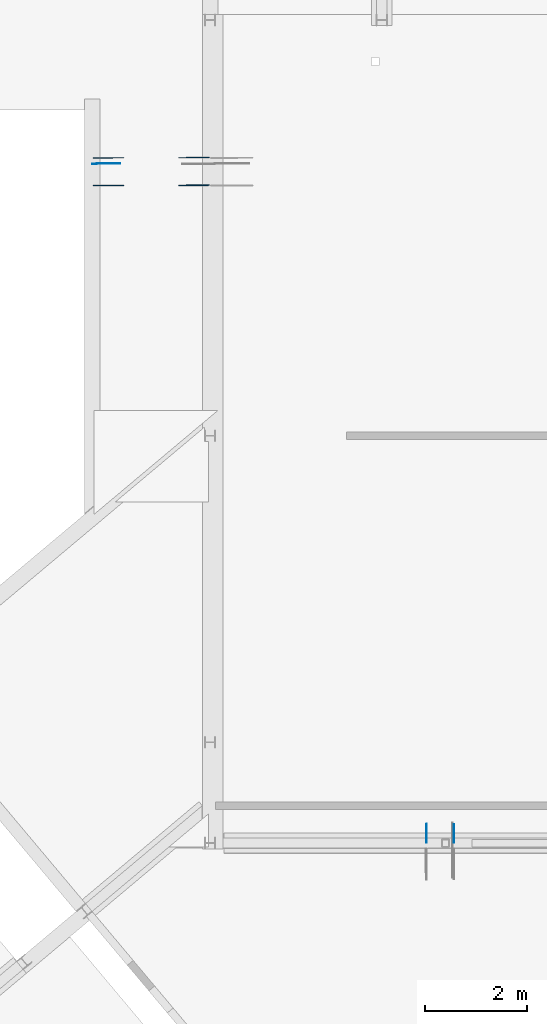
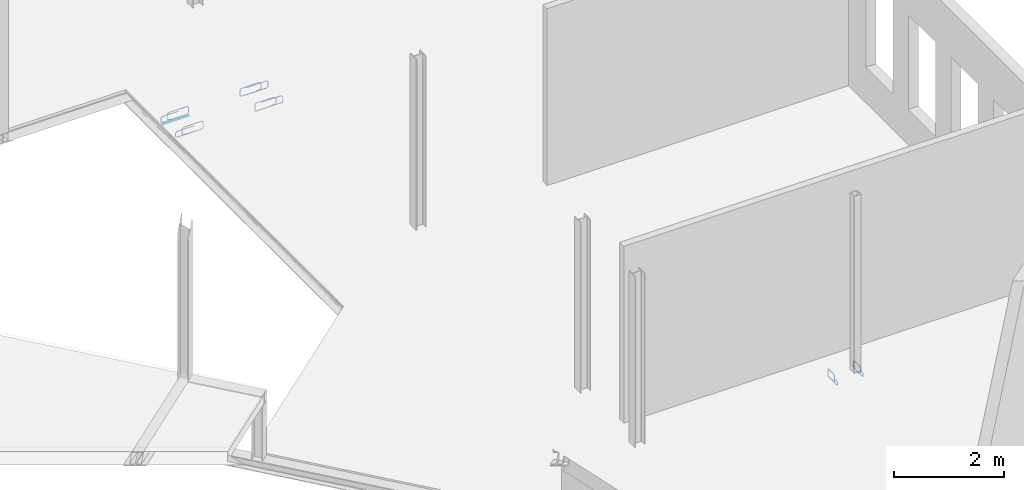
# One storey, part 14 of 16: 7 reinforcing bars.
"""IFC2X3 building model written with IfcOpenShell, lengths in millimetres."""

from ifc_helpers import new_model, entity, si_unit, converted_unit, derived_unit, direction, frame, origin, place, context, subcontext, project, spatial, element, save


model = new_model("IFC2X3")

# Units and contexts
model_context = context("Model", 3, precision=0.01, world=origin(), true_north=direction((6.12303176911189e-17, 1.0)))
body_context = subcontext(model_context, "Body", "Model", "MODEL_VIEW")
ifc_project = project(units=[si_unit("LENGTHUNIT", "METRE", prefix="MILLI"), si_unit("AREAUNIT", "SQUARE_METRE"), si_unit("VOLUMEUNIT", "CUBIC_METRE"), converted_unit("PLANEANGLEUNIT", "DEGREE", entity("IfcRatioMeasure", 0.0174532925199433), si_unit("PLANEANGLEUNIT", "RADIAN"), dimensions=[0, 0, 0, 0, 0, 0, 0]), si_unit("MASSUNIT", "GRAM", prefix="KILO"), derived_unit("MASSDENSITYUNIT", [(si_unit("MASSUNIT", "GRAM", prefix="KILO"), 1), (si_unit("LENGTHUNIT", "METRE"), -3)]), derived_unit("MOMENTOFINERTIAUNIT", [(si_unit("LENGTHUNIT", "METRE"), 4)]), si_unit("TIMEUNIT", "SECOND"), si_unit("FREQUENCYUNIT", "HERTZ"), si_unit("THERMODYNAMICTEMPERATUREUNIT", "DEGREE_CELSIUS"), derived_unit("THERMALTRANSMITTANCEUNIT", [(si_unit("MASSUNIT", "GRAM", prefix="KILO"), 1), (si_unit("THERMODYNAMICTEMPERATUREUNIT", "KELVIN"), -1), (si_unit("TIMEUNIT", "SECOND"), -3)]), derived_unit("VOLUMETRICFLOWRATEUNIT", [(si_unit("LENGTHUNIT", "METRE"), 3), (si_unit("TIMEUNIT", "SECOND"), -1)]), si_unit("ELECTRICCURRENTUNIT", "AMPERE"), si_unit("ELECTRICVOLTAGEUNIT", "VOLT"), si_unit("POWERUNIT", "WATT"), si_unit("FORCEUNIT", "NEWTON", prefix="KILO"), si_unit("ILLUMINANCEUNIT", "LUX"), si_unit("LUMINOUSFLUXUNIT", "LUMEN"), si_unit("LUMINOUSINTENSITYUNIT", "CANDELA"), derived_unit("USERDEFINED", [(si_unit("MASSUNIT", "GRAM", prefix="KILO"), -1), (si_unit("LENGTHUNIT", "METRE"), -2), (si_unit("TIMEUNIT", "SECOND"), 3), (si_unit("LUMINOUSFLUXUNIT", "LUMEN"), 1)]), derived_unit("LINEARVELOCITYUNIT", [(si_unit("LENGTHUNIT", "METRE"), 1), (si_unit("TIMEUNIT", "SECOND"), -1)]), si_unit("PRESSUREUNIT", "PASCAL"), derived_unit("USERDEFINED", [(si_unit("LENGTHUNIT", "METRE"), -2), (si_unit("MASSUNIT", "GRAM", prefix="KILO"), 1), (si_unit("TIMEUNIT", "SECOND"), -2)]), derived_unit("LINEARFORCEUNIT", [(si_unit("MASSUNIT", "GRAM", prefix="KILO"), 1), (si_unit("LENGTHUNIT", "METRE"), 1), (si_unit("TIMEUNIT", "SECOND"), -2), (si_unit("LENGTHUNIT", "METRE"), -1)]), derived_unit("PLANARFORCEUNIT", [(si_unit("MASSUNIT", "GRAM", prefix="KILO"), 1), (si_unit("LENGTHUNIT", "METRE"), 1), (si_unit("TIMEUNIT", "SECOND"), -2), (si_unit("LENGTHUNIT", "METRE"), -2)])], contexts=[model_context])

# Site, building, storey
site_placement = place(None, origin())
site = spatial("IfcSite", under=ifc_project, at=site_placement, Name="Default", CompositionType="ELEMENT")
building_placement = place(site_placement, origin())
building = spatial("IfcBuilding", under=site, at=building_placement, CompositionType="ELEMENT")
storey_placement = place(building_placement, frame((0.0, 0.0, 3500.0)))
storey = spatial("IfcBuildingStorey", under=building, at=storey_placement, Name="01 eerste verdieping", CompositionType="ELEMENT", Elevation=3500.00000000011)

# Reinforcing bars
reinforcing_bar_1_placement = place(storey_placement, origin())
ifc_direction_1 = entity("IfcDirection", [0.0, -1.0, 0.0])
ifc_direction_2 = entity("IfcDirection", [1.0, 0.0, 0.0])
element("IfcReinforcingBar", 1, at=reinforcing_bar_1_placement, inside=storey, Name="Rebar Bar:SR_ø8 : Shape Rebar Shape 5: 1", ObjectType="Rebar Bar:SR_ø8", BarLength=1953.71830744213, BarRole="NOTDEFINED", CrossSectionArea=5.02654824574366e-05, NominalDiameter=8.0, context=body_context, shape_type="AdvancedSweptSolid", body=[
    entity("IfcSweptDiskSolid", entity("IfcCompositeCurve", [entity("IfcCompositeCurveSegment", "CONTINUOUS", True, entity("IfcPolyline", [entity("IfcCartesianPoint", [25353.3084043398, 15141.6014686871, 205.203958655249]), entity("IfcCartesianPoint", [25405.3084043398, 15141.6014686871, 205.20395865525])])), entity("IfcCompositeCurveSegment", "CONTINUOUS", True, entity("IfcTrimmedCurve", entity("IfcCircle", entity("IfcAxis2Placement3D", entity("IfcCartesianPoint", [25405.3084043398, 15141.6014686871, 249.203958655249]), ifc_direction_1, ifc_direction_2), 44.0), [entity("IfcParameterValue", 270.0)], [entity("IfcParameterValue", 360.0)], True, "PARAMETER")), entity("IfcCompositeCurveSegment", "CONTINUOUS", True, entity("IfcPolyline", [entity("IfcCartesianPoint", [25449.3084043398, 15141.6014686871, 249.20395865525]), entity("IfcCartesianPoint", [25449.3084043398, 15141.6014686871, 322.533605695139])])), entity("IfcCompositeCurveSegment", "CONTINUOUS", True, entity("IfcTrimmedCurve", entity("IfcCircle", entity("IfcAxis2Placement3D", entity("IfcCartesianPoint", [25405.3084043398, 15141.6014686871, 322.533605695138]), ifc_direction_1, entity("IfcDirection", [0.0, 0.0, 1.0])), 44.0), [entity("IfcParameterValue", 270.0)], [entity("IfcParameterValue", 360.0)], True, "PARAMETER")), entity("IfcCompositeCurveSegment", "CONTINUOUS", True, entity("IfcPolyline", [entity("IfcCartesianPoint", [25405.3084043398, 15141.6014686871, 366.533605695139]), entity("IfcCartesianPoint", [25049.0333681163, 15141.6014686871, 366.533605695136])])), entity("IfcCompositeCurveSegment", "CONTINUOUS", True, entity("IfcTrimmedCurve", entity("IfcCircle", entity("IfcAxis2Placement3D", entity("IfcCartesianPoint", [25049.0333681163, 15141.6014686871, 322.533605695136]), ifc_direction_1, entity("IfcDirection", [-1.0, 0.0, 0.0])), 44.0), [entity("IfcParameterValue", 270.0)], [entity("IfcParameterValue", 360.0)], True, "PARAMETER")), entity("IfcCompositeCurveSegment", "CONTINUOUS", True, entity("IfcPolyline", [entity("IfcCartesianPoint", [25005.0333681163, 15141.6014686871, 322.533605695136]), entity("IfcCartesianPoint", [25005.0333681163, 15141.6014686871, 235.73556592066])])), entity("IfcCompositeCurveSegment", "CONTINUOUS", True, entity("IfcTrimmedCurve", entity("IfcCircle", entity("IfcAxis2Placement3D", entity("IfcCartesianPoint", [25049.0333681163, 15141.6014686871, 235.73556592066]), ifc_direction_1, entity("IfcDirection", [0.0, 0.0, -1.0])), 44.0), [entity("IfcParameterValue", 270.0)], [entity("IfcParameterValue", 360.0)], True, "PARAMETER")), entity("IfcCompositeCurveSegment", "CONTINUOUS", True, entity("IfcPolyline", [entity("IfcCartesianPoint", [25049.0333681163, 15141.6014686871, 191.73556592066]), entity("IfcCartesianPoint", [25551.3187459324, 15141.6014686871, 191.735565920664])])), entity("IfcCompositeCurveSegment", "CONTINUOUS", True, entity("IfcTrimmedCurve", entity("IfcCircle", entity("IfcAxis2Placement3D", entity("IfcCartesianPoint", [25551.3187459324, 15143.9214803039, 235.674359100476]), entity("IfcDirection", [0.0, -0.998608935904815, 0.0527275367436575]), ifc_direction_2), 44.0), [entity("IfcParameterValue", 270.0)], [entity("IfcParameterValue", 360.0)], True, "PARAMETER")), entity("IfcCompositeCurveSegment", "CONTINUOUS", True, entity("IfcPolyline", [entity("IfcCartesianPoint", [25595.3187459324, 15143.9214803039, 235.674359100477]), entity("IfcCartesianPoint", [25595.3187459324, 15147.2814570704, 299.309094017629])])), entity("IfcCompositeCurveSegment", "CONTINUOUS", True, entity("IfcTrimmedCurve", entity("IfcCircle", entity("IfcAxis2Placement3D", entity("IfcCartesianPoint", [25551.3187459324, 15147.2814570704, 299.309094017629]), entity("IfcDirection", [0.0, -0.998608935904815, 0.0527275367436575]), entity("IfcDirection", [0.0, 0.0527275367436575, 0.998608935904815])), 44.0), [entity("IfcParameterValue", 270.0)], [entity("IfcParameterValue", 360.0)], True, "PARAMETER")), entity("IfcCompositeCurveSegment", "CONTINUOUS", True, entity("IfcPolyline", [entity("IfcCartesianPoint", [25551.3187459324, 15149.6014686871, 343.24788719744]), entity("IfcCartesianPoint", [25146.4910908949, 15149.6014686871, 343.247887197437])]))], False), 4.0, None, 0.0, 547.0),
])
reinforcing_bar_2_placement = place(storey_placement, origin())
ifc_direction_3 = entity("IfcDirection", [0.0, -1.0, 0.0])
ifc_direction_4 = entity("IfcDirection", [1.0, 0.0, 0.0])
element("IfcReinforcingBar", 2, at=reinforcing_bar_2_placement, inside=storey, Name="Rebar Bar:SR_ø8 : Shape Rebar Shape 5: 2", ObjectType="Rebar Bar:SR_ø8", BarLength=1953.71830744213, BarRole="NOTDEFINED", CrossSectionArea=5.02654824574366e-05, NominalDiameter=8.0, context=body_context, shape_type="AdvancedSweptSolid", body=[
    entity("IfcSweptDiskSolid", entity("IfcCompositeCurve", [entity("IfcCompositeCurveSegment", "CONTINUOUS", True, entity("IfcPolyline", [entity("IfcCartesianPoint", [25353.3084043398, 14602.8628808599, 205.203958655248]), entity("IfcCartesianPoint", [25405.3084043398, 14602.8628808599, 205.203958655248])])), entity("IfcCompositeCurveSegment", "CONTINUOUS", True, entity("IfcTrimmedCurve", entity("IfcCircle", entity("IfcAxis2Placement3D", entity("IfcCartesianPoint", [25405.3084043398, 14602.8628808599, 249.203958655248]), ifc_direction_3, ifc_direction_4), 44.0), [entity("IfcParameterValue", 270.0)], [entity("IfcParameterValue", 360.0)], True, "PARAMETER")), entity("IfcCompositeCurveSegment", "CONTINUOUS", True, entity("IfcPolyline", [entity("IfcCartesianPoint", [25449.3084043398, 14602.8628808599, 249.203958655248]), entity("IfcCartesianPoint", [25449.3084043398, 14602.8628808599, 322.533605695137])])), entity("IfcCompositeCurveSegment", "CONTINUOUS", True, entity("IfcTrimmedCurve", entity("IfcCircle", entity("IfcAxis2Placement3D", entity("IfcCartesianPoint", [25405.3084043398, 14602.8628808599, 322.533605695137]), ifc_direction_3, entity("IfcDirection", [0.0, 0.0, 1.0])), 44.0), [entity("IfcParameterValue", 270.0)], [entity("IfcParameterValue", 360.0)], True, "PARAMETER")), entity("IfcCompositeCurveSegment", "CONTINUOUS", True, entity("IfcPolyline", [entity("IfcCartesianPoint", [25405.3084043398, 14602.8628808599, 366.533605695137]), entity("IfcCartesianPoint", [25049.0333681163, 14602.8628808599, 366.533605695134])])), entity("IfcCompositeCurveSegment", "CONTINUOUS", True, entity("IfcTrimmedCurve", entity("IfcCircle", entity("IfcAxis2Placement3D", entity("IfcCartesianPoint", [25049.0333681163, 14602.8628808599, 322.533605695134]), ifc_direction_3, entity("IfcDirection", [-1.0, 0.0, 0.0])), 44.0), [entity("IfcParameterValue", 270.0)], [entity("IfcParameterValue", 360.0)], True, "PARAMETER")), entity("IfcCompositeCurveSegment", "CONTINUOUS", True, entity("IfcPolyline", [entity("IfcCartesianPoint", [25005.0333681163, 14602.8628808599, 322.533605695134]), entity("IfcCartesianPoint", [25005.0333681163, 14602.8628808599, 235.735565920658])])), entity("IfcCompositeCurveSegment", "CONTINUOUS", True, entity("IfcTrimmedCurve", entity("IfcCircle", entity("IfcAxis2Placement3D", entity("IfcCartesianPoint", [25049.0333681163, 14602.8628808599, 235.735565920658]), ifc_direction_3, entity("IfcDirection", [0.0, 0.0, -1.0])), 44.0), [entity("IfcParameterValue", 270.0)], [entity("IfcParameterValue", 360.0)], True, "PARAMETER")), entity("IfcCompositeCurveSegment", "CONTINUOUS", True, entity("IfcPolyline", [entity("IfcCartesianPoint", [25049.0333681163, 14602.8628808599, 191.735565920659]), entity("IfcCartesianPoint", [25551.3187459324, 14602.8628808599, 191.735565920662])])), entity("IfcCompositeCurveSegment", "CONTINUOUS", True, entity("IfcTrimmedCurve", entity("IfcCircle", entity("IfcAxis2Placement3D", entity("IfcCartesianPoint", [25551.3187459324, 14605.1828924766, 235.674359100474]), entity("IfcDirection", [0.0, -0.998608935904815, 0.0527275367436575]), ifc_direction_4), 44.0), [entity("IfcParameterValue", 270.0)], [entity("IfcParameterValue", 360.0)], True, "PARAMETER")), entity("IfcCompositeCurveSegment", "CONTINUOUS", True, entity("IfcPolyline", [entity("IfcCartesianPoint", [25595.3187459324, 14605.1828924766, 235.674359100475]), entity("IfcCartesianPoint", [25595.3187459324, 14608.5428692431, 299.309094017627])])), entity("IfcCompositeCurveSegment", "CONTINUOUS", True, entity("IfcTrimmedCurve", entity("IfcCircle", entity("IfcAxis2Placement3D", entity("IfcCartesianPoint", [25551.3187459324, 14608.5428692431, 299.309094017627]), entity("IfcDirection", [0.0, -0.998608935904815, 0.0527275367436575]), entity("IfcDirection", [0.0, 0.0527275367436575, 0.998608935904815])), 44.0), [entity("IfcParameterValue", 270.0)], [entity("IfcParameterValue", 360.0)], True, "PARAMETER")), entity("IfcCompositeCurveSegment", "CONTINUOUS", True, entity("IfcPolyline", [entity("IfcCartesianPoint", [25551.3187459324, 14610.8628808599, 343.247887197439]), entity("IfcCartesianPoint", [25146.4910908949, 14610.8628808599, 343.247887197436])]))], False), 4.0, None, 0.0, 547.0),
])
reinforcing_bar_3_placement = place(storey_placement, origin())
element("IfcReinforcingBar", 3, at=reinforcing_bar_3_placement, inside=storey, Name="Rebar Bar:SR_ø10 1 : Shape 00 3: 1", ObjectType="Rebar Bar:SR_ø10 1", BarLength=545.078420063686, BarRole="NOTDEFINED", CrossSectionArea=7.85398163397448e-05, NominalDiameter=10.0, context=body_context, shape_type="AdvancedSweptSolid", body=[
    entity("IfcSweptDiskSolid", entity("IfcCompositeCurve", [entity("IfcCompositeCurveSegment", "CONTINUOUS", True, entity("IfcPolyline", [entity("IfcCartesianPoint", [23315.8909803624, 15023.9904877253, 243.499999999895]), entity("IfcCartesianPoint", [23860.9572918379, 15027.6236837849, 243.499999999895])]))], False), 5.0, None, 0.0, 1.0),
])
reinforcing_bar_4_placement = place(storey_placement, origin())
ifc_direction_5 = entity("IfcDirection", [0.0, 1.0, 0.0])
ifc_direction_6 = entity("IfcDirection", [-1.0, 0.0, 0.0])
element("IfcReinforcingBar", 4, at=reinforcing_bar_4_placement, inside=storey, Name="Rebar Bar:SR_ø8 : Shape Rebar Shape 5: 1", ObjectType="Rebar Bar:SR_ø8", BarLength=1863.16138541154, BarRole="NOTDEFINED", CrossSectionArea=5.02654824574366e-05, NominalDiameter=8.0, context=body_context, shape_type="AdvancedSweptSolid", body=[
    entity("IfcSweptDiskSolid", entity("IfcCompositeCurve", [entity("IfcCompositeCurveSegment", "CONTINUOUS", True, entity("IfcPolyline", [entity("IfcCartesianPoint", [23572.29160798, 15141.6014686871, 205.203958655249]), entity("IfcCartesianPoint", [23520.29160798, 15141.6014686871, 205.203958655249])])), entity("IfcCompositeCurveSegment", "CONTINUOUS", True, entity("IfcTrimmedCurve", entity("IfcCircle", entity("IfcAxis2Placement3D", entity("IfcCartesianPoint", [23520.29160798, 15141.6014686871, 249.203958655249]), ifc_direction_5, ifc_direction_6), 44.0), [entity("IfcParameterValue", 270.0)], [entity("IfcParameterValue", 360.0)], True, "PARAMETER")), entity("IfcCompositeCurveSegment", "CONTINUOUS", True, entity("IfcPolyline", [entity("IfcCartesianPoint", [23476.29160798, 15141.6014686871, 249.203958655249]), entity("IfcCartesianPoint", [23476.29160798, 15141.6014686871, 322.533605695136])])), entity("IfcCompositeCurveSegment", "CONTINUOUS", True, entity("IfcTrimmedCurve", entity("IfcCircle", entity("IfcAxis2Placement3D", entity("IfcCartesianPoint", [23520.29160798, 15141.6014686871, 322.533605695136]), ifc_direction_5, entity("IfcDirection", [0.0, 0.0, 1.0])), 44.0), [entity("IfcParameterValue", 270.0)], [entity("IfcParameterValue", 360.0)], True, "PARAMETER")), entity("IfcCompositeCurveSegment", "CONTINUOUS", True, entity("IfcPolyline", [entity("IfcCartesianPoint", [23520.29160798, 15141.6014686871, 366.533605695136]), entity("IfcCartesianPoint", [23877.9697515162, 15141.6014686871, 366.533605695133])])), entity("IfcCompositeCurveSegment", "CONTINUOUS", True, entity("IfcTrimmedCurve", entity("IfcCircle", entity("IfcAxis2Placement3D", entity("IfcCartesianPoint", [23877.9697515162, 15141.6014686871, 322.533605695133]), ifc_direction_5, entity("IfcDirection", [1.0, 0.0, 0.0])), 44.0), [entity("IfcParameterValue", 270.0)], [entity("IfcParameterValue", 360.0)], True, "PARAMETER")), entity("IfcCompositeCurveSegment", "CONTINUOUS", True, entity("IfcPolyline", [entity("IfcCartesianPoint", [23921.9697515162, 15141.6014686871, 322.533605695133]), entity("IfcCartesianPoint", [23921.9697515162, 15141.6014686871, 235.735565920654])])), entity("IfcCompositeCurveSegment", "CONTINUOUS", True, entity("IfcTrimmedCurve", entity("IfcCircle", entity("IfcAxis2Placement3D", entity("IfcCartesianPoint", [23877.9697515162, 15141.6014686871, 235.735565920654]), ifc_direction_5, entity("IfcDirection", [0.0, 0.0, -1.0])), 44.0), [entity("IfcParameterValue", 270.0)], [entity("IfcParameterValue", 360.0)], True, "PARAMETER")), entity("IfcCompositeCurveSegment", "CONTINUOUS", True, entity("IfcPolyline", [entity("IfcCartesianPoint", [23877.9697515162, 15141.6014686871, 191.735565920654]), entity("IfcCartesianPoint", [23382.9258462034, 15141.6014686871, 191.735565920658])])), entity("IfcCompositeCurveSegment", "CONTINUOUS", True, entity("IfcTrimmedCurve", entity("IfcCircle", entity("IfcAxis2Placement3D", entity("IfcCartesianPoint", [23382.9258462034, 15139.0652222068, 235.662407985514]), entity("IfcDirection", [0.0, 0.998337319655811, 0.0576419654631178]), ifc_direction_6), 44.0), [entity("IfcParameterValue", 270.0)], [entity("IfcParameterValue", 360.0)], True, "PARAMETER")), entity("IfcCompositeCurveSegment", "CONTINUOUS", True, entity("IfcPolyline", [entity("IfcCartesianPoint", [23338.9258462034, 15139.0652222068, 235.662407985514]), entity("IfcCartesianPoint", [23338.9258462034, 15136.1377151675, 286.365736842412])])), entity("IfcCompositeCurveSegment", "CONTINUOUS", True, entity("IfcTrimmedCurve", entity("IfcCircle", entity("IfcAxis2Placement3D", entity("IfcCartesianPoint", [23382.9258462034, 15136.1377151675, 286.365736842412]), entity("IfcDirection", [0.0, 0.998337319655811, 0.0576419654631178]), entity("IfcDirection", [0.0, -0.0576419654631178, 0.998337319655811])), 44.0), [entity("IfcParameterValue", 270.0)], [entity("IfcParameterValue", 360.0)], True, "PARAMETER")), entity("IfcCompositeCurveSegment", "CONTINUOUS", True, entity("IfcPolyline", [entity("IfcCartesianPoint", [23382.9258462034, 15133.6014686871, 330.292578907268]), entity("IfcCartesianPoint", [23715.990252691, 15133.6014686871, 330.292578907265])]))], False), 4.0, None, 0.0, 547.0),
])
reinforcing_bar_5_placement = place(storey_placement, origin())
ifc_direction_7 = entity("IfcDirection", [0.0, 1.0, 0.0])
ifc_direction_8 = entity("IfcDirection", [-1.0, 0.0, 0.0])
element("IfcReinforcingBar", 5, at=reinforcing_bar_5_placement, inside=storey, Name="Rebar Bar:SR_ø8 : Shape Rebar Shape 5: 2", ObjectType="Rebar Bar:SR_ø8", BarLength=1863.16138541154, BarRole="NOTDEFINED", CrossSectionArea=5.02654824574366e-05, NominalDiameter=8.0, context=body_context, shape_type="AdvancedSweptSolid", body=[
    entity("IfcSweptDiskSolid", entity("IfcCompositeCurve", [entity("IfcCompositeCurveSegment", "CONTINUOUS", True, entity("IfcPolyline", [entity("IfcCartesianPoint", [23572.29160798, 14602.8628808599, 205.203958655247]), entity("IfcCartesianPoint", [23520.29160798, 14602.8628808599, 205.203958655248])])), entity("IfcCompositeCurveSegment", "CONTINUOUS", True, entity("IfcTrimmedCurve", entity("IfcCircle", entity("IfcAxis2Placement3D", entity("IfcCartesianPoint", [23520.29160798, 14602.8628808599, 249.203958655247]), ifc_direction_7, ifc_direction_8), 44.0), [entity("IfcParameterValue", 270.0)], [entity("IfcParameterValue", 360.0)], True, "PARAMETER")), entity("IfcCompositeCurveSegment", "CONTINUOUS", True, entity("IfcPolyline", [entity("IfcCartesianPoint", [23476.29160798, 14602.8628808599, 249.203958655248]), entity("IfcCartesianPoint", [23476.29160798, 14602.8628808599, 322.533605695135])])), entity("IfcCompositeCurveSegment", "CONTINUOUS", True, entity("IfcTrimmedCurve", entity("IfcCircle", entity("IfcAxis2Placement3D", entity("IfcCartesianPoint", [23520.29160798, 14602.8628808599, 322.533605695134]), ifc_direction_7, entity("IfcDirection", [0.0, 0.0, 1.0])), 44.0), [entity("IfcParameterValue", 270.0)], [entity("IfcParameterValue", 360.0)], True, "PARAMETER")), entity("IfcCompositeCurveSegment", "CONTINUOUS", True, entity("IfcPolyline", [entity("IfcCartesianPoint", [23520.29160798, 14602.8628808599, 366.533605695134]), entity("IfcCartesianPoint", [23877.9697515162, 14602.8628808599, 366.533605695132])])), entity("IfcCompositeCurveSegment", "CONTINUOUS", True, entity("IfcTrimmedCurve", entity("IfcCircle", entity("IfcAxis2Placement3D", entity("IfcCartesianPoint", [23877.9697515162, 14602.8628808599, 322.533605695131]), ifc_direction_7, entity("IfcDirection", [1.0, 0.0, 0.0])), 44.0), [entity("IfcParameterValue", 270.0)], [entity("IfcParameterValue", 360.0)], True, "PARAMETER")), entity("IfcCompositeCurveSegment", "CONTINUOUS", True, entity("IfcPolyline", [entity("IfcCartesianPoint", [23921.9697515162, 14602.8628808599, 322.533605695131]), entity("IfcCartesianPoint", [23921.9697515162, 14602.8628808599, 235.735565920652])])), entity("IfcCompositeCurveSegment", "CONTINUOUS", True, entity("IfcTrimmedCurve", entity("IfcCircle", entity("IfcAxis2Placement3D", entity("IfcCartesianPoint", [23877.9697515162, 14602.8628808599, 235.735565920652]), ifc_direction_7, entity("IfcDirection", [0.0, 0.0, -1.0])), 44.0), [entity("IfcParameterValue", 270.0)], [entity("IfcParameterValue", 360.0)], True, "PARAMETER")), entity("IfcCompositeCurveSegment", "CONTINUOUS", True, entity("IfcPolyline", [entity("IfcCartesianPoint", [23877.9697515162, 14602.8628808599, 191.735565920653]), entity("IfcCartesianPoint", [23382.9258462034, 14602.8628808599, 191.735565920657])])), entity("IfcCompositeCurveSegment", "CONTINUOUS", True, entity("IfcTrimmedCurve", entity("IfcCircle", entity("IfcAxis2Placement3D", entity("IfcCartesianPoint", [23382.9258462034, 14600.3266343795, 235.662407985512]), entity("IfcDirection", [0.0, 0.998337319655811, 0.0576419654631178]), ifc_direction_8), 44.0), [entity("IfcParameterValue", 270.0)], [entity("IfcParameterValue", 360.0)], True, "PARAMETER")), entity("IfcCompositeCurveSegment", "CONTINUOUS", True, entity("IfcPolyline", [entity("IfcCartesianPoint", [23338.9258462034, 14600.3266343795, 235.662407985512]), entity("IfcCartesianPoint", [23338.9258462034, 14597.3991273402, 286.365736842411])])), entity("IfcCompositeCurveSegment", "CONTINUOUS", True, entity("IfcTrimmedCurve", entity("IfcCircle", entity("IfcAxis2Placement3D", entity("IfcCartesianPoint", [23382.9258462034, 14597.3991273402, 286.36573684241]), entity("IfcDirection", [0.0, 0.998337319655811, 0.0576419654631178]), entity("IfcDirection", [0.0, -0.0576419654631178, 0.998337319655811])), 44.0), [entity("IfcParameterValue", 270.0)], [entity("IfcParameterValue", 360.0)], True, "PARAMETER")), entity("IfcCompositeCurveSegment", "CONTINUOUS", True, entity("IfcPolyline", [entity("IfcCartesianPoint", [23382.9258462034, 14594.8628808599, 330.292578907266]), entity("IfcCartesianPoint", [23715.990252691, 14594.8628808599, 330.292578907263])]))], False), 4.0, None, 0.0, 547.0),
])
reinforcing_bar_6_placement = place(storey_placement, origin())
ifc_direction_9 = entity("IfcDirection", [0.0, 0.0, 1.0])
element("IfcReinforcingBar", 6, at=reinforcing_bar_6_placement, inside=storey, Name="Rebar Bar:SR_ø8 : Shape Rebar Shape 5: 1", ObjectType="Rebar Bar:SR_ø8", BarLength=1074.4588729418, BarRole="NOTDEFINED", CrossSectionArea=5.02654824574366e-05, NominalDiameter=8.0, context=body_context, shape_type="AdvancedSweptSolid", body=[
    entity("IfcSweptDiskSolid", entity("IfcCompositeCurve", [entity("IfcCompositeCurveSegment", "CONTINUOUS", True, entity("IfcPolyline", [entity("IfcCartesianPoint", [29842.411042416, 1967.19637225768, 201.521087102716]), entity("IfcCartesianPoint", [29841.9975570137, 1915.19801622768, 201.521087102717])])), entity("IfcCompositeCurveSegment", "CONTINUOUS", True, entity("IfcTrimmedCurve", entity("IfcCircle", entity("IfcAxis2Placement3D", entity("IfcCartesianPoint", [29841.9975570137, 1915.19801622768, 245.521087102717]), entity("IfcDirection", [-0.999968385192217, 0.00795164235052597, 0.0]), entity("IfcDirection", [-0.00795164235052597, -0.999968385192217, 0.0])), 44.0), [entity("IfcParameterValue", 270.0)], [entity("IfcParameterValue", 360.0)], True, "PARAMETER")), entity("IfcCompositeCurveSegment", "CONTINUOUS", True, entity("IfcPolyline", [entity("IfcCartesianPoint", [29841.6476847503, 1871.19940727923, 245.521087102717]), entity("IfcCartesianPoint", [29841.6476847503, 1871.19940727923, 317.015902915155])])), entity("IfcCompositeCurveSegment", "CONTINUOUS", True, entity("IfcTrimmedCurve", entity("IfcCircle", entity("IfcAxis2Placement3D", entity("IfcCartesianPoint", [29841.9975570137, 1915.19801622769, 317.015902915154]), entity("IfcDirection", [-0.999968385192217, 0.00795164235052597, 0.0]), ifc_direction_9), 44.0), [entity("IfcParameterValue", 270.0)], [entity("IfcParameterValue", 360.0)], True, "PARAMETER")), entity("IfcCompositeCurveSegment", "CONTINUOUS", True, entity("IfcPolyline", [entity("IfcCartesianPoint", [29841.9975570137, 1915.19801622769, 361.015902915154]), entity("IfcCartesianPoint", [29843.2923145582, 2078.02181461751, 361.015902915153])])), entity("IfcCompositeCurveSegment", "CONTINUOUS", True, entity("IfcTrimmedCurve", entity("IfcCircle", entity("IfcAxis2Placement3D", entity("IfcCartesianPoint", [29843.2923145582, 2078.02181461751, 317.015902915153]), entity("IfcDirection", [-0.999968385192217, 0.00795164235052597, 0.0]), entity("IfcDirection", [0.00795164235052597, 0.999968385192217, 0.0])), 44.0), [entity("IfcParameterValue", 270.0)], [entity("IfcParameterValue", 360.0)], True, "PARAMETER")), entity("IfcCompositeCurveSegment", "CONTINUOUS", True, entity("IfcPolyline", [entity("IfcCartesianPoint", [29843.6421868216, 2122.02042356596, 317.015902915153]), entity("IfcCartesianPoint", [29843.6421868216, 2122.02042356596, 234.570439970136])])), entity("IfcCompositeCurveSegment", "CONTINUOUS", True, entity("IfcTrimmedCurve", entity("IfcCircle", entity("IfcAxis2Placement3D", entity("IfcCartesianPoint", [29843.2923145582, 2078.0218146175, 234.570439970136]), entity("IfcDirection", [-0.999968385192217, 0.00795164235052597, 0.0]), entity("IfcDirection", [0.0, 0.0, -1.0])), 44.0), [entity("IfcParameterValue", 270.0)], [entity("IfcParameterValue", 360.0)], True, "PARAMETER")), entity("IfcCompositeCurveSegment", "CONTINUOUS", True, entity("IfcPolyline", [entity("IfcCartesianPoint", [29843.2923145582, 2078.0218146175, 190.570439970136]), entity("IfcCartesianPoint", [29841.1595054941, 1809.80783544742, 190.570439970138])])), entity("IfcCompositeCurveSegment", "CONTINUOUS", True, entity("IfcTrimmedCurve", entity("IfcCircle", entity("IfcAxis2Placement3D", entity("IfcCartesianPoint", [29841.1595054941, 1809.80783544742, 234.570439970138]), entity("IfcDirection", [-0.999968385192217, 0.00795164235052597, 0.0]), entity("IfcDirection", [-0.00795164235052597, -0.999968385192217, 0.0])), 44.0), [entity("IfcParameterValue", 270.0)], [entity("IfcParameterValue", 360.0)], True, "PARAMETER")), entity("IfcCompositeCurveSegment", "CONTINUOUS", True, entity("IfcPolyline", [entity("IfcCartesianPoint", [29840.8096332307, 1765.80922649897, 234.570439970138]), entity("IfcCartesianPoint", [29840.8096332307, 1765.80922649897, 234.961298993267])])), entity("IfcCompositeCurveSegment", "CONTINUOUS", True, entity("IfcTrimmedCurve", entity("IfcCircle", entity("IfcAxis2Placement3D", entity("IfcCartesianPoint", [29841.1595054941, 1809.80783544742, 234.961298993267]), entity("IfcDirection", [-0.999968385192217, 0.00795164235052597, 0.0]), ifc_direction_9), 44.0), [entity("IfcParameterValue", 270.0)], [entity("IfcParameterValue", 360.0)], True, "PARAMETER")), entity("IfcCompositeCurveSegment", "CONTINUOUS", True, entity("IfcPolyline", [entity("IfcCartesianPoint", [29841.1595054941, 1809.80783544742, 278.961298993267]), entity("IfcCartesianPoint", [29841.3375117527, 1832.19322743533, 278.961298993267])]))], False), 4.0, None, 0.0, 547.0),
])
reinforcing_bar_7_placement = place(storey_placement, origin())
ifc_direction_10 = entity("IfcDirection", [0.0, 0.0, 1.0])
element("IfcReinforcingBar", 7, at=reinforcing_bar_7_placement, inside=storey, Name="Rebar Bar:SR_ø8 : Shape Rebar Shape 5: 2", ObjectType="Rebar Bar:SR_ø8", BarLength=1074.4588729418, BarRole="NOTDEFINED", CrossSectionArea=5.02654824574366e-05, NominalDiameter=8.0, context=body_context, shape_type="AdvancedSweptSolid", body=[
    entity("IfcSweptDiskSolid", entity("IfcCompositeCurve", [entity("IfcCompositeCurveSegment", "CONTINUOUS", True, entity("IfcPolyline", [entity("IfcCartesianPoint", [30381.1325981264, 1962.91251568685, 201.521087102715]), entity("IfcCartesianPoint", [30380.7191127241, 1910.91415965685, 201.521087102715])])), entity("IfcCompositeCurveSegment", "CONTINUOUS", True, entity("IfcTrimmedCurve", entity("IfcCircle", entity("IfcAxis2Placement3D", entity("IfcCartesianPoint", [30380.7191127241, 1910.91415965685, 245.521087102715]), entity("IfcDirection", [-0.999968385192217, 0.00795164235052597, 0.0]), entity("IfcDirection", [-0.00795164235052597, -0.999968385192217, 0.0])), 44.0), [entity("IfcParameterValue", 270.0)], [entity("IfcParameterValue", 360.0)], True, "PARAMETER")), entity("IfcCompositeCurveSegment", "CONTINUOUS", True, entity("IfcPolyline", [entity("IfcCartesianPoint", [30380.3692404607, 1866.9155507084, 245.521087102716]), entity("IfcCartesianPoint", [30380.3692404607, 1866.9155507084, 317.015902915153])])), entity("IfcCompositeCurveSegment", "CONTINUOUS", True, entity("IfcTrimmedCurve", entity("IfcCircle", entity("IfcAxis2Placement3D", entity("IfcCartesianPoint", [30380.7191127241, 1910.91415965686, 317.015902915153]), entity("IfcDirection", [-0.999968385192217, 0.00795164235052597, 0.0]), ifc_direction_10), 44.0), [entity("IfcParameterValue", 270.0)], [entity("IfcParameterValue", 360.0)], True, "PARAMETER")), entity("IfcCompositeCurveSegment", "CONTINUOUS", True, entity("IfcPolyline", [entity("IfcCartesianPoint", [30380.7191127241, 1910.91415965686, 361.015902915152]), entity("IfcCartesianPoint", [30382.0138702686, 2073.73795804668, 361.015902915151])])), entity("IfcCompositeCurveSegment", "CONTINUOUS", True, entity("IfcTrimmedCurve", entity("IfcCircle", entity("IfcAxis2Placement3D", entity("IfcCartesianPoint", [30382.0138702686, 2073.73795804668, 317.015902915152]), entity("IfcDirection", [-0.999968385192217, 0.00795164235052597, 0.0]), entity("IfcDirection", [0.00795164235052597, 0.999968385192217, 0.0])), 44.0), [entity("IfcParameterValue", 270.0)], [entity("IfcParameterValue", 360.0)], True, "PARAMETER")), entity("IfcCompositeCurveSegment", "CONTINUOUS", True, entity("IfcPolyline", [entity("IfcCartesianPoint", [30382.363742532, 2117.73656699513, 317.015902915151]), entity("IfcCartesianPoint", [30382.363742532, 2117.73656699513, 234.570439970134])])), entity("IfcCompositeCurveSegment", "CONTINUOUS", True, entity("IfcTrimmedCurve", entity("IfcCircle", entity("IfcAxis2Placement3D", entity("IfcCartesianPoint", [30382.0138702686, 2073.73795804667, 234.570439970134]), entity("IfcDirection", [-0.999968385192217, 0.00795164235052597, 0.0]), entity("IfcDirection", [0.0, 0.0, -1.0])), 44.0), [entity("IfcParameterValue", 270.0)], [entity("IfcParameterValue", 360.0)], True, "PARAMETER")), entity("IfcCompositeCurveSegment", "CONTINUOUS", True, entity("IfcPolyline", [entity("IfcCartesianPoint", [30382.0138702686, 2073.73795804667, 190.570439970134]), entity("IfcCartesianPoint", [30379.8810612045, 1805.52397887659, 190.570439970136])])), entity("IfcCompositeCurveSegment", "CONTINUOUS", True, entity("IfcTrimmedCurve", entity("IfcCircle", entity("IfcAxis2Placement3D", entity("IfcCartesianPoint", [30379.8810612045, 1805.52397887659, 234.570439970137]), entity("IfcDirection", [-0.999968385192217, 0.00795164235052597, 0.0]), entity("IfcDirection", [-0.00795164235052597, -0.999968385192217, 0.0])), 44.0), [entity("IfcParameterValue", 270.0)], [entity("IfcParameterValue", 360.0)], True, "PARAMETER")), entity("IfcCompositeCurveSegment", "CONTINUOUS", True, entity("IfcPolyline", [entity("IfcCartesianPoint", [30379.531188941, 1761.52536992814, 234.570439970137]), entity("IfcCartesianPoint", [30379.531188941, 1761.52536992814, 234.961298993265])])), entity("IfcCompositeCurveSegment", "CONTINUOUS", True, entity("IfcTrimmedCurve", entity("IfcCircle", entity("IfcAxis2Placement3D", entity("IfcCartesianPoint", [30379.8810612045, 1805.52397887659, 234.961298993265]), entity("IfcDirection", [-0.999968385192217, 0.00795164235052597, 0.0]), ifc_direction_10), 44.0), [entity("IfcParameterValue", 270.0)], [entity("IfcParameterValue", 360.0)], True, "PARAMETER")), entity("IfcCompositeCurveSegment", "CONTINUOUS", True, entity("IfcPolyline", [entity("IfcCartesianPoint", [30379.8810612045, 1805.52397887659, 278.961298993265]), entity("IfcCartesianPoint", [30380.0590674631, 1827.9093708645, 278.961298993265])]))], False), 4.0, None, 0.0, 547.0),
])

save(model, "model.ifc")
